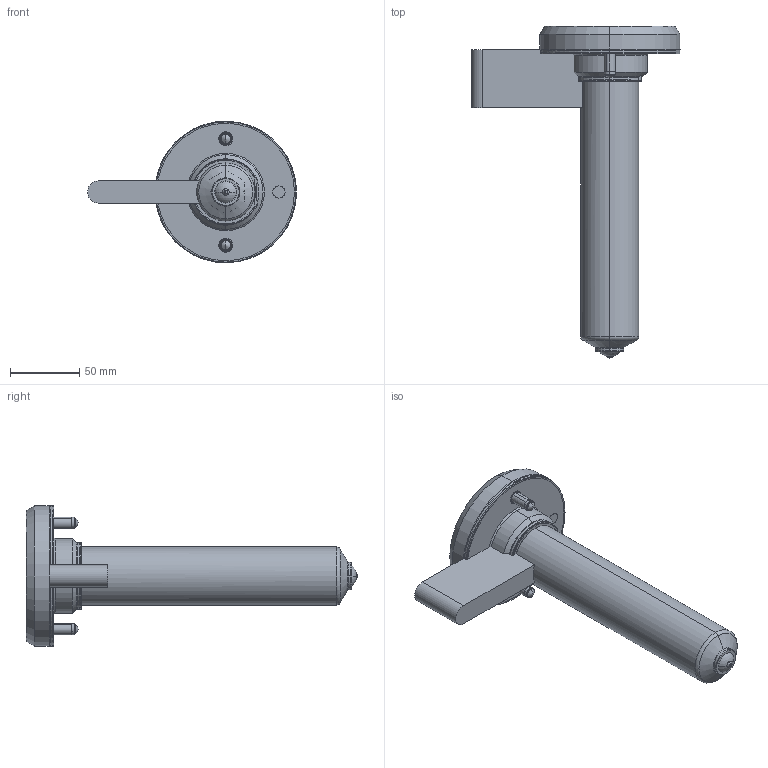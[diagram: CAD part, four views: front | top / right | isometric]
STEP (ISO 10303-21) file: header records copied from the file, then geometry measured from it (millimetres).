
FILE_DESCRIPTION (( 'STEP AP214' ), '1' );
FILE_NAME ('SOHSB16200-SOPGA16.STEP', '2024-11-28T08:59:07', ( '' ), ( '' ), 'SwSTEP 2.0', 'SolidWorks 2022', '' );
FILE_SCHEMA (( 'AUTOMOTIVE_DESIGN' ));
Length unit declared in the file: millimetre
Products named in the file (11): EcoONE-HSB16-Open Gate Bodiless Retainer Tip_SOBRT1601; EcoONE-HSB16-Open Gate Cut-out Details_Point Gate; EcoONE-HSB16-16005_SOTC10350-J; EcoONE-HSB16-16004_SONH28192; SOHSB16200-SOPGA16; EcoONE-HSB16-00002(A)_SOHSBLR16; EcoONE-HSB16-Point Gate standard Tip Assembly_SOPGA16; EcoONE-HSB16-16006_SONHC16; socket head cap screw_iso_ISO 4762 M8 x 25 - 25N; EcoONE-HSB16-Point Gate Needle Tip-Standard_SOPGN1601; EcoONE-HSB16-16003(A)_SOHSBNB16200
Assembly tree (12 placements, depth 3):
  SOHSB16200-SOPGA16
    EcoONE-HSB16-16003(A)_SOHSBNB16200
    EcoONE-HSB16-16004_SONH28192
    EcoONE-HSB16-16005_SOTC10350-J
    EcoONE-HSB16-16006_SONHC16  x2
    EcoONE-HSB16-00002(A)_SOHSBLR16
    socket head cap screw_iso_ISO 4762 M8 x 25 - 25N  x2
    EcoONE-HSB16-Point Gate standard Tip Assembly_SOPGA16
      EcoONE-HSB16-Open Gate Bodiless Retainer Tip_SOBRT1601
      EcoONE-HSB16-Point Gate Needle Tip-Standard_SOPGN1601
    EcoONE-HSB16-Open Gate Cut-out Details_Point Gate
Bounding box: 151.2 x 240 x 102.4 mm (x, y, z)
Volume: 676858.9 mm3; surface area: 163646.9 mm2
Topology: 11 solids, 11 shells, 517 faces, 1289 edges, 810 vertices
Faces by surface type: cylinder 157, plane 135, bspline 106, cone 83, torus 28, sphere 8
Entity records: 30192 total; most frequent: CARTESIAN_POINT 18722, ORIENTED_EDGE 2362, DIRECTION 1971, EDGE_CURVE 1181, AXIS2_PLACEMENT_3D 797, VERTEX_POINT 749, EDGE_LOOP 514, ADVANCED_FACE 474
